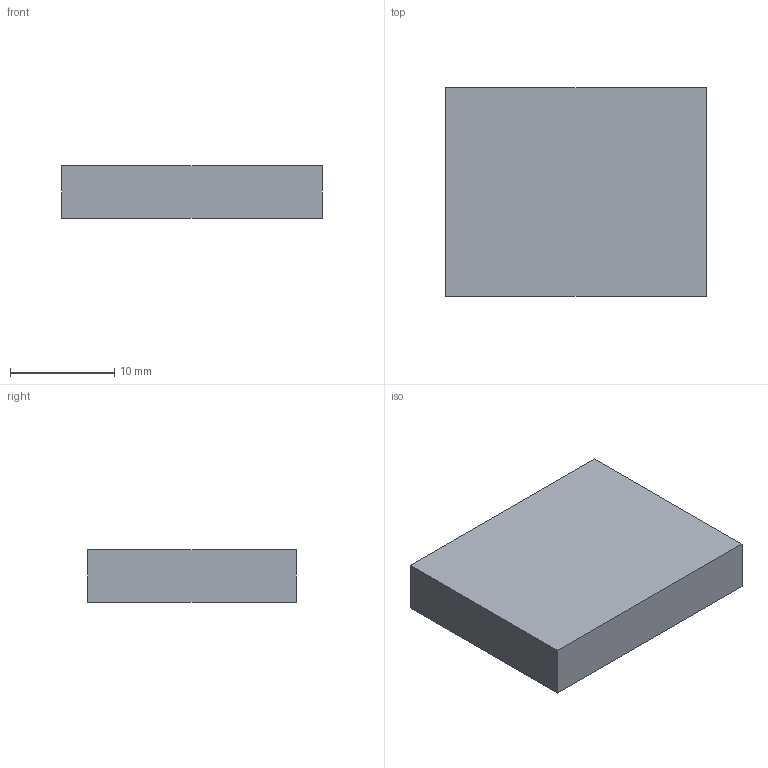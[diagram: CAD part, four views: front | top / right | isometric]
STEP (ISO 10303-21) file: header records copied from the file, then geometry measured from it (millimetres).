
FILE_DESCRIPTION(('Open CASCADE Model'),'2;1');
FILE_NAME('battery','2026-11-19T17:25:15',('Author'),('Open CASCADE'), 'Open CASCADE STEP processor 7.8','build123d','Unknown');
FILE_SCHEMA(('AUTOMOTIVE_DESIGN { 1 0 10303 214 1 1 1 1 }'));
Length unit declared in the file: millimetre
Products named in the file (1): battery
Bounding box: 25 x 20 x 5 mm (x, y, z)
Volume: 2500 mm3; surface area: 1450 mm2
Topology: 1 solids, 1 shells, 6 faces, 12 edges, 8 vertices
Faces by surface type: plane 6
Entity records: 331 total; most frequent: CARTESIAN_POINT 51, DIRECTION 50, LINE 36, VECTOR 36, ORIENTED_EDGE 24, PCURVE 24, DEFINITIONAL_REPRESENTATION 24, EDGE_CURVE 12
